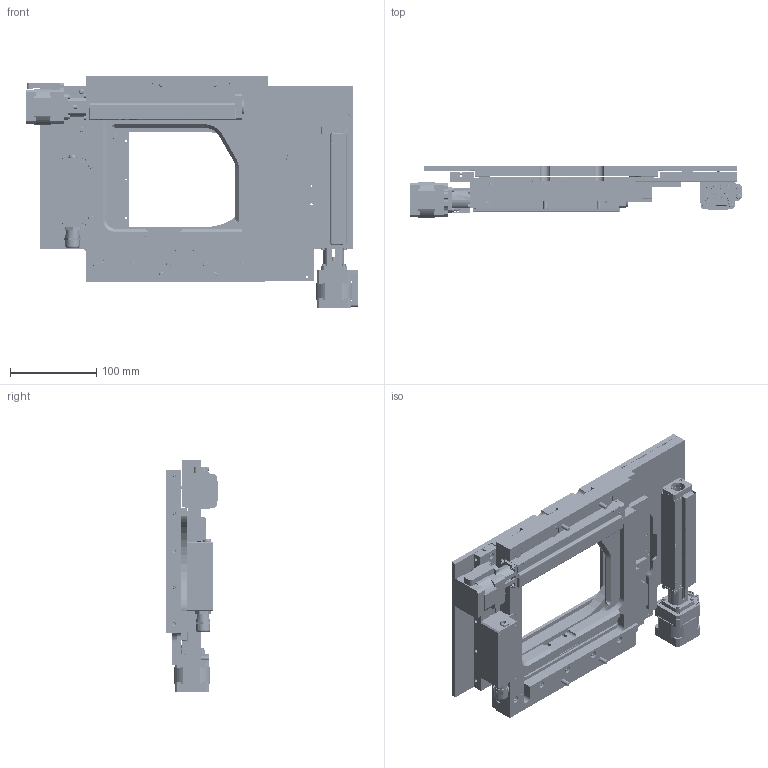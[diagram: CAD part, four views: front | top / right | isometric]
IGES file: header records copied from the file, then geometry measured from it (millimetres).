
Start section: SolidWorks IGES file using analytic representation for surfaces
Global section: file name: C:\1-DATA-FILES-FOR-PROJECTS\2022-PRODUCT-REFERENCE-MODELS\1-STAGE-REFERENCE-MODELS\H117P1XD-STAGE-REFERENCE-MODELS\2-H117P1XD-UK-REFERENCE-PARTS\H117P1XD_REFERENCE-IGES.IGS; native system: SolidWorks 2019; preprocessor: SolidWorks 2019; author: jwilliams; date: 220131.111545; units: inch
Bounding box: 385.14 x 60.45 x 269.05 mm (x, y, z)
Surface area: 581982.8 mm2 (no closed solid volume)
Topology: 0 solids, 0 shells, 5806 faces, 71643 edges, 71517 vertices
Faces by surface type: bspline 3380, revolution 2426
